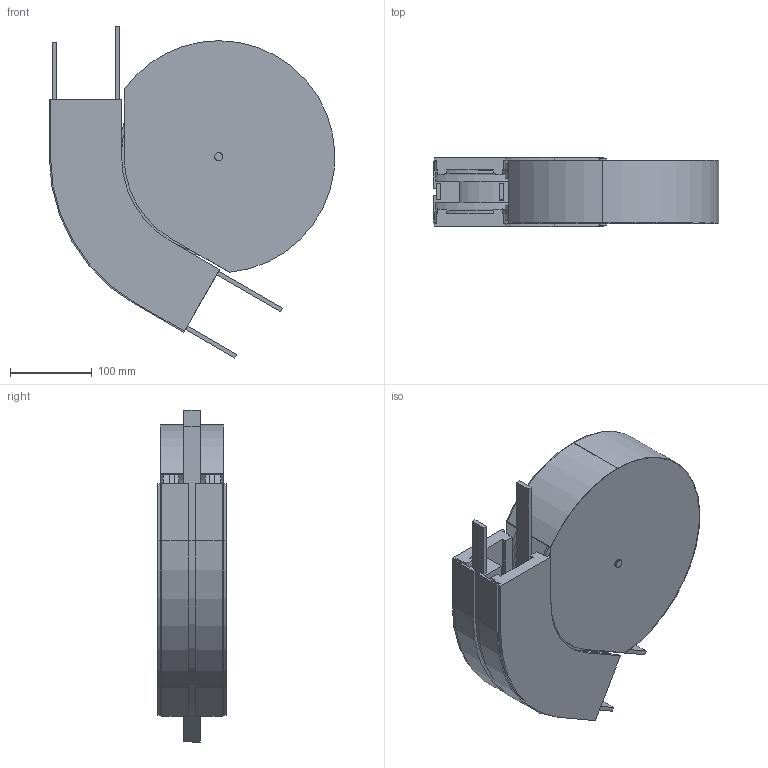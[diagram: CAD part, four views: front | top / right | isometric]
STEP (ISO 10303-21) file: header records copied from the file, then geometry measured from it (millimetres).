
FILE_DESCRIPTION (( 'STEP AP214' ), '1' );
FILE_NAME ('927752 CS090SL Horizontale schijfbochtsectie R162,5 60°.STEP', '2014-03-20T15:38:16', ( 'Beheerder' ), ( '' ), 'SwSTEP 2.0', 'SolidWorks 2012', '' );
FILE_SCHEMA (( 'AUTOMOTIVE_DESIGN' ));
Length unit declared in the file: millimetre
Products named in the file (1): 927752 CS090SL Horizontale schijfbochtsectie R162,5 60°
Bounding box: 349.35 x 84 x 406.24 mm (x, y, z)
Volume: 3016931.4 mm3; surface area: 778820 mm2
Topology: 3 solids, 3 shells, 182 faces, 484 edges, 316 vertices
Faces by surface type: plane 122, cylinder 56, cone 4
Entity records: 5684 total; most frequent: CARTESIAN_POINT 983, ORIENTED_EDGE 968, DIRECTION 966, EDGE_CURVE 484, VECTOR 368, LINE 368, VERTEX_POINT 316, AXIS2_PLACEMENT_3D 299
